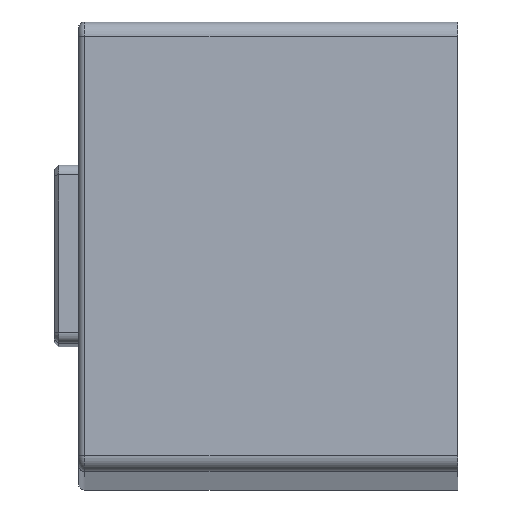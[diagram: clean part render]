
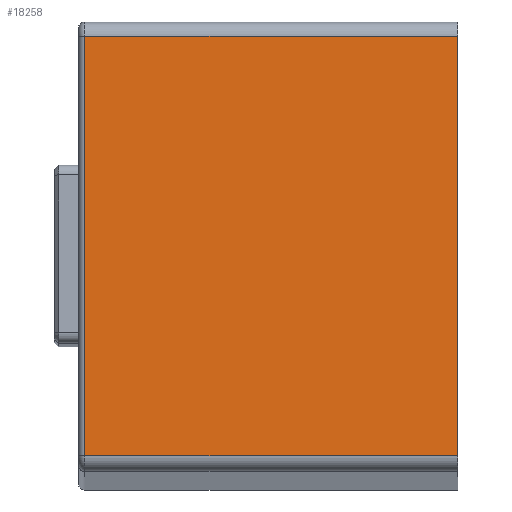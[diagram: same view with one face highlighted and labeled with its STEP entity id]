
A CAD part, front view. The second image highlights one B-rep face of the part: STEP entity #18258.
In plain terms, the highlighted planar face has unit normal (0, -0.999, 0.05).
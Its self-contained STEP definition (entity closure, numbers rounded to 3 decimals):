
#4253=DIRECTION('',(-1.,0.,0.));
#4254=VECTOR('',#4253,61.5);
#4255=CARTESIAN_POINT('',(87.148,-8.235,51.991));
#4256=LINE('',#4255,#4254);
#4265=DIRECTION('',(1.,0.,0.));
#4266=VECTOR('',#4265,61.5);
#4267=CARTESIAN_POINT('',(25.648,-11.699,
-17.122));
#4268=LINE('',#4267,#4266);
#4410=DIRECTION('',(0.,-0.05,-0.999));
#4411=VECTOR('',#4410,69.2);
#4412=CARTESIAN_POINT('',(25.648,-8.235,51.991));
#4413=LINE('',#4412,#4411);
#5359=DIRECTION('',(0.,0.05,0.999));
#5360=VECTOR('',#5359,69.2);
#5361=CARTESIAN_POINT('',(87.148,-11.699,
-17.122));
#5362=LINE('',#5361,#5360);
#14514=CARTESIAN_POINT('',(87.148,-8.235,
51.991));
#14516=VERTEX_POINT('',#14514);
#14528=CARTESIAN_POINT('',(87.148,-11.699,
-17.122));
#14529=VERTEX_POINT('',#14528);
#14570=CARTESIAN_POINT('',(25.648,-11.699,
-17.122));
#14571=VERTEX_POINT('',#14570);
#14572=CARTESIAN_POINT('',(25.648,-8.235,
51.991));
#14573=VERTEX_POINT('',#14572);
#18244=CARTESIAN_POINT('',(87.148,-11.669,
-16.523));
#18245=DIRECTION('',(0.,-0.999,0.05));
#18246=DIRECTION('',(0.,0.05,0.999));
#18247=AXIS2_PLACEMENT_3D('',#18244,#18245,#18246);
#18248=PLANE('',#18247);
#18250=ORIENTED_EDGE('',*,*,#18249,.F.);
#18252=ORIENTED_EDGE('',*,*,#18251,.F.);
#18253=ORIENTED_EDGE('',*,*,#18227,.F.);
#18255=ORIENTED_EDGE('',*,*,#18254,.F.);
#18256=EDGE_LOOP('',(#18250,#18252,#18253,#18255));
#18257=FACE_OUTER_BOUND('',#18256,.F.);
#18258=ADVANCED_FACE('',(#18257),#18248,.T.);
#18227=EDGE_CURVE('',#14516,#14573,#4256,.T.);
#18249=EDGE_CURVE('',#14571,#14529,#4268,.T.);
#18251=EDGE_CURVE('',#14573,#14571,#4413,.T.);
#18254=EDGE_CURVE('',#14529,#14516,#5362,.T.);
